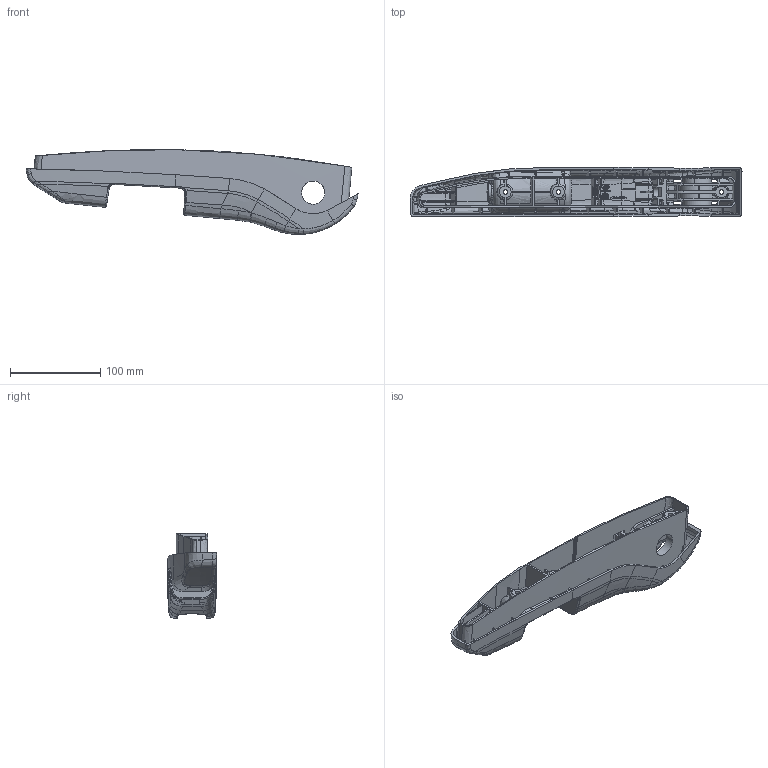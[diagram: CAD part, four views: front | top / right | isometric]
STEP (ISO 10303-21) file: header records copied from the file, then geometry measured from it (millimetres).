
FILE_DESCRIPTION(('CATIA V5 STEP Exchange'),'2;1');
FILE_NAME('F:\福田A6\14-新扶手\3D\新建文件夹\SHT0017846-20250113.stp','2025-01-13T01:44:44+00:00',('none'),('none'),'CATIA Version 5 Release 20 GA (IN-10)','CATIA V5 STEP AP203','none');
FILE_SCHEMA(('CONFIG_CONTROL_DESIGN'));
Products named in the file (1): SHT0017846
Bounding box: 368.19 x 54.6 x 94.13 mm (x, y, z)
Volume: 234596.7 mm3; surface area: 195895.5 mm2
Topology: 1 solids, 36 shells, 1424 faces, 8451 edges, 7037 vertices
Faces by surface type: bspline 647, plane 638, cylinder 99, cone 15, torus 11, sphere 8, extrusion 6
Entity records: 160748 total; most frequent: CARTESIAN_POINT 109250, ORIENTED_EDGE 12635, EDGE_CURVE 8430, VERTEX_POINT 7037, DIRECTION 4961, B_SPLINE_CURVE_WITH_KNOTS 4779, VECTOR 3497, LINE 3491
